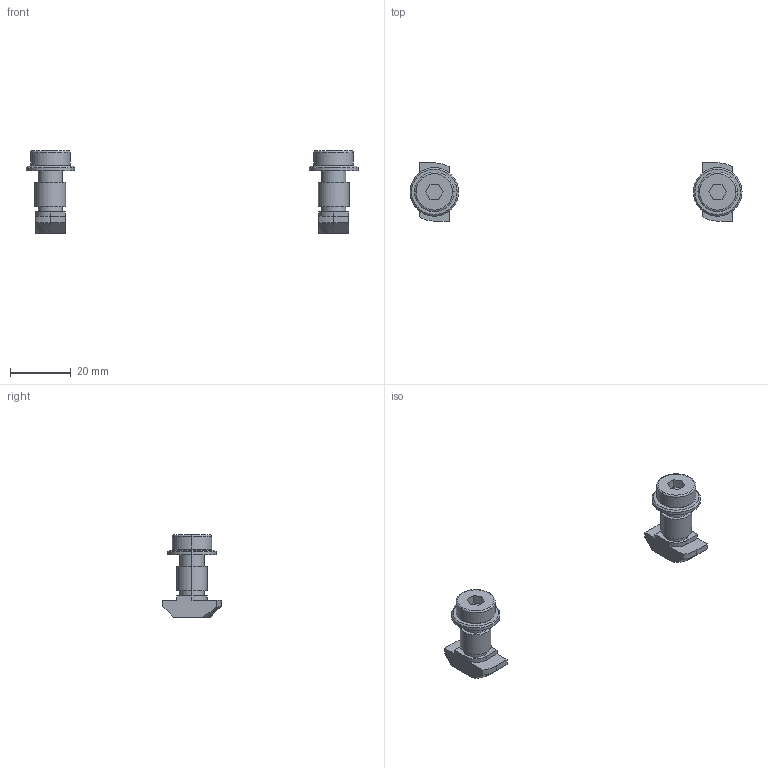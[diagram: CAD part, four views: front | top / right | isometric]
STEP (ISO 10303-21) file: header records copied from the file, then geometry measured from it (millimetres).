
FILE_DESCRIPTION (( 'STEP AP203' ), '1' );
FILE_NAME ('ASUTEC_75000105.STEP', '2021-06-23T09:36:05', ( '' ), ( '' ), 'SwSTEP 2.0', 'SolidWorks 2020', '' );
FILE_SCHEMA (( 'CONFIG_CONTROL_DESIGN' ));
Length unit declared in the file: millimetre
Products named in the file (1): ASUTEC_75000105
Bounding box: 109.35 x 19.2 x 27.1 mm (x, y, z)
Volume: 5692.4 mm3; surface area: 3673.8 mm2
Topology: 2 solids, 2 shells, 108 faces, 244 edges, 156 vertices
Faces by surface type: plane 52, cylinder 36, cone 16, torus 4
Entity records: 3119 total; most frequent: DIRECTION 554, CARTESIAN_POINT 537, ORIENTED_EDGE 488, EDGE_CURVE 244, AXIS2_PLACEMENT_3D 205, VERTEX_POINT 156, LINE 144, VECTOR 144
